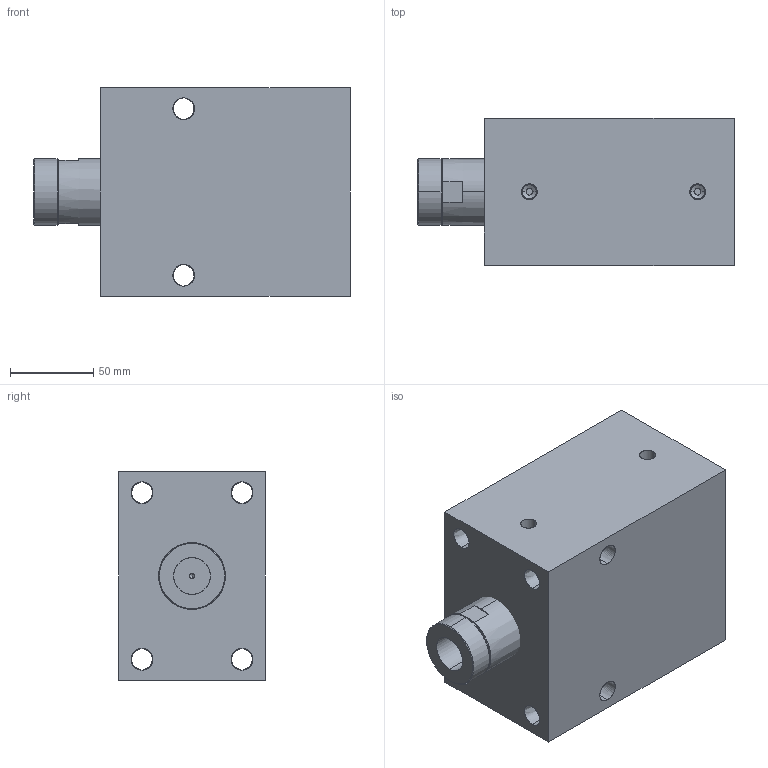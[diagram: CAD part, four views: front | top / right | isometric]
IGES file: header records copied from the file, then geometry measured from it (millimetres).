
Start section: SolidWorks IGES file using analytic representation for surfaces
Global section: file name: C:\Documents and Settings\rajib\Desktop\Rajib\BLOCK CYLINDER HYDRAULIC\0601-0606\IGS 0601-0608\0602.IGS; native system: SolidWorks 2007; preprocessor: SolidWorks 2007; author: rajib; date: 110121.105600; units: millimetre
Bounding box: 190 x 88 x 125 mm (x, y, z)
Surface area: 135544 mm2 (no closed solid volume)
Topology: 0 solids, 0 shells, 80 faces, 1904 edges, 1902 vertices
Faces by surface type: revolution 58, bspline 22
